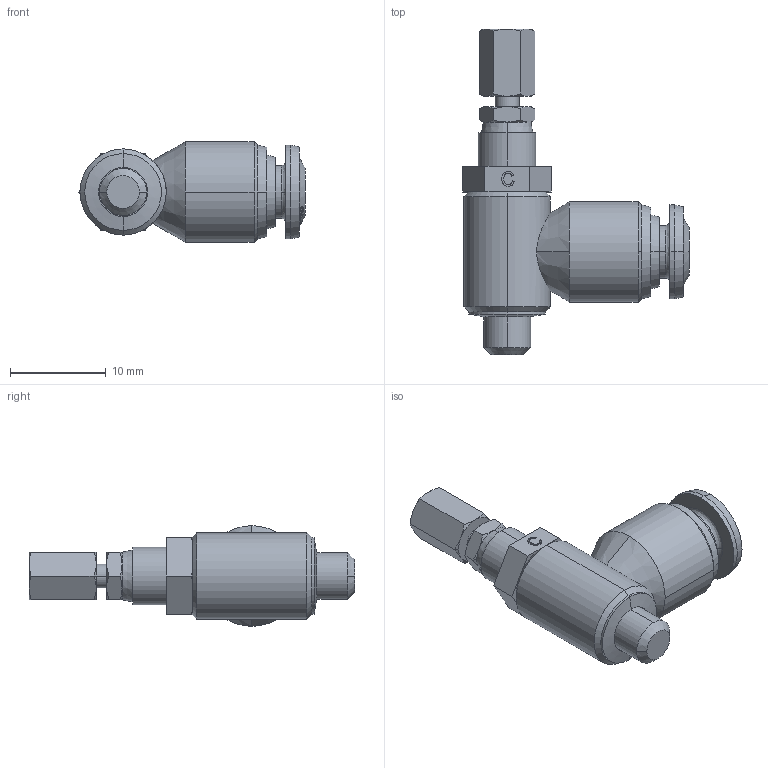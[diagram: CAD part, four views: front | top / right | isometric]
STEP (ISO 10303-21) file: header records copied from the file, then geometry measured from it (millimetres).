
FILE_DESCRIPTION (( 'STEP AP203' ), '1' );
FILE_NAME ('249921.STEP', '2016-09-20T13:03:16', ( '' ), ( '' ), 'SwSTEP 2.0', 'SolidWorks 2016', '' );
FILE_SCHEMA (( 'CONFIG_CONTROL_DESIGN' ));
Length unit declared in the file: millimetre
Products named in the file (1): 249921
Bounding box: 23.62 x 34 x 10.5 mm (x, y, z)
Volume: 2395.7 mm3; surface area: 1506.5 mm2
Topology: 1 solids, 1 shells, 236 faces, 581 edges, 370 vertices
Faces by surface type: bspline 114, cone 65, plane 39, cylinder 18
Entity records: 13759 total; most frequent: CARTESIAN_POINT 8919, ORIENTED_EDGE 1162, DIRECTION 651, EDGE_CURVE 581, VERTEX_POINT 370, B_SPLINE_CURVE_WITH_KNOTS 278, EDGE_LOOP 259, FACE_OUTER_BOUND 236
